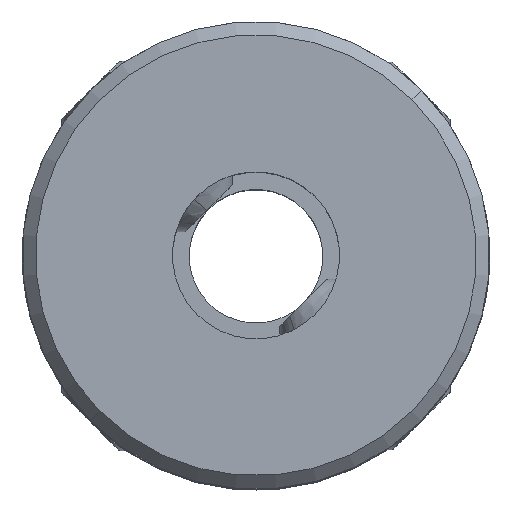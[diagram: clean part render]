
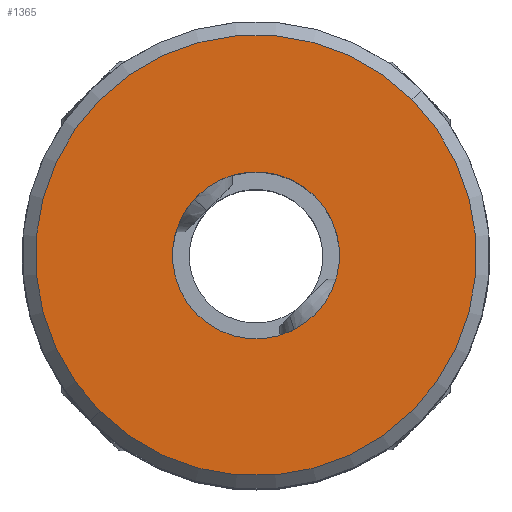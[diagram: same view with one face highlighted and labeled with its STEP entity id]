
A CAD part, top view. The second image highlights one B-rep face of the part: STEP entity #1365.
In plain terms, the highlighted planar face has unit normal (0, 0, 1).
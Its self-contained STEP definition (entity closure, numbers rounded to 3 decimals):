
#176 = DIRECTION ( 'NONE',  ( -0.707, -0.707, 0. ) ) ;
#472 = VERTEX_POINT ( 'NONE', #8457 ) ;
#477 = AXIS2_PLACEMENT_3D ( 'NONE', #4120, #4062, #6598 ) ;
#617 = VERTEX_POINT ( 'NONE', #2889 ) ;
#1365 = ADVANCED_FACE ( 'NONE', ( #9935, #8207 ), #4512, .F. ) ;
#2889 = CARTESIAN_POINT ( 'NONE',  ( 4.667, 4.667, 11. ) ) ;
#2999 = DIRECTION ( 'NONE',  ( 0., 0., -1. ) ) ;
#3002 = EDGE_CURVE ( 'NONE', #617, #5758, #9259, .T. ) ;
#3286 = CIRCLE ( 'NONE', #7639, 2.5 ) ;
#3485 = DIRECTION ( 'NONE',  ( 0., 0., 1. ) ) ;
#3678 = EDGE_CURVE ( 'NONE', #4281, #472, #6057, .T. ) ;
#4045 = ORIENTED_EDGE ( 'NONE', *, *, #4200, .T. ) ;
#4062 = DIRECTION ( 'NONE',  ( 0., 0., -1. ) ) ;
#4100 = DIRECTION ( 'NONE',  ( 0., 0., -1. ) ) ;
#4120 = CARTESIAN_POINT ( 'NONE',  ( 0., 0., 11. ) ) ;
#4200 = EDGE_CURVE ( 'NONE', #472, #4281, #3286, .T. ) ;
#4281 = VERTEX_POINT ( 'NONE', #5936 ) ;
#4512 = PLANE ( 'NONE',  #5153 ) ;
#4680 = CARTESIAN_POINT ( 'NONE',  ( 0., 0., 11. ) ) ;
#5102 = AXIS2_PLACEMENT_3D ( 'NONE', #5143, #3485, #10111 ) ;
#5143 = CARTESIAN_POINT ( 'NONE',  ( 0., 0., 11. ) ) ;
#5153 = AXIS2_PLACEMENT_3D ( 'NONE', #4680, #2999, #7225 ) ;
#5227 = ORIENTED_EDGE ( 'NONE', *, *, #9427, .T. ) ;
#5758 = VERTEX_POINT ( 'NONE', #10586 ) ;
#5883 = ORIENTED_EDGE ( 'NONE', *, *, #3678, .T. ) ;
#5936 = CARTESIAN_POINT ( 'NONE',  ( 1.768, 1.768, 11. ) ) ;
#6057 = CIRCLE ( 'NONE', #477, 2.5 ) ;
#6568 = CIRCLE ( 'NONE', #5102, 6.6 ) ;
#6598 = DIRECTION ( 'NONE',  ( -0.707, -0.707, 0. ) ) ;
#6803 = CARTESIAN_POINT ( 'NONE',  ( 0., 0., 11. ) ) ;
#7225 = DIRECTION ( 'NONE',  ( -0.707, -0.707, 0. ) ) ;
#7631 = DIRECTION ( 'NONE',  ( 0., 0., 1. ) ) ;
#7639 = AXIS2_PLACEMENT_3D ( 'NONE', #8959, #4100, #9043 ) ;
#8203 = EDGE_LOOP ( 'NONE', ( #5227, #10811 ) ) ;
#8207 = FACE_BOUND ( 'NONE', #8696, .T. ) ;
#8457 = CARTESIAN_POINT ( 'NONE',  ( -1.768, -1.768, 11. ) ) ;
#8696 = EDGE_LOOP ( 'NONE', ( #4045, #5883 ) ) ;
#8959 = CARTESIAN_POINT ( 'NONE',  ( 0., 0., 11. ) ) ;
#9043 = DIRECTION ( 'NONE',  ( -0.707, -0.707, 0. ) ) ;
#9259 = CIRCLE ( 'NONE', #9606, 6.6 ) ;
#9427 = EDGE_CURVE ( 'NONE', #5758, #617, #6568, .T. ) ;
#9606 = AXIS2_PLACEMENT_3D ( 'NONE', #6803, #7631, #176 ) ;
#9935 = FACE_OUTER_BOUND ( 'NONE', #8203, .T. ) ;
#10111 = DIRECTION ( 'NONE',  ( -0.707, -0.707, 0. ) ) ;
#10586 = CARTESIAN_POINT ( 'NONE',  ( -4.667, -4.667, 11. ) ) ;
#10811 = ORIENTED_EDGE ( 'NONE', *, *, #3002, .T. ) ;
